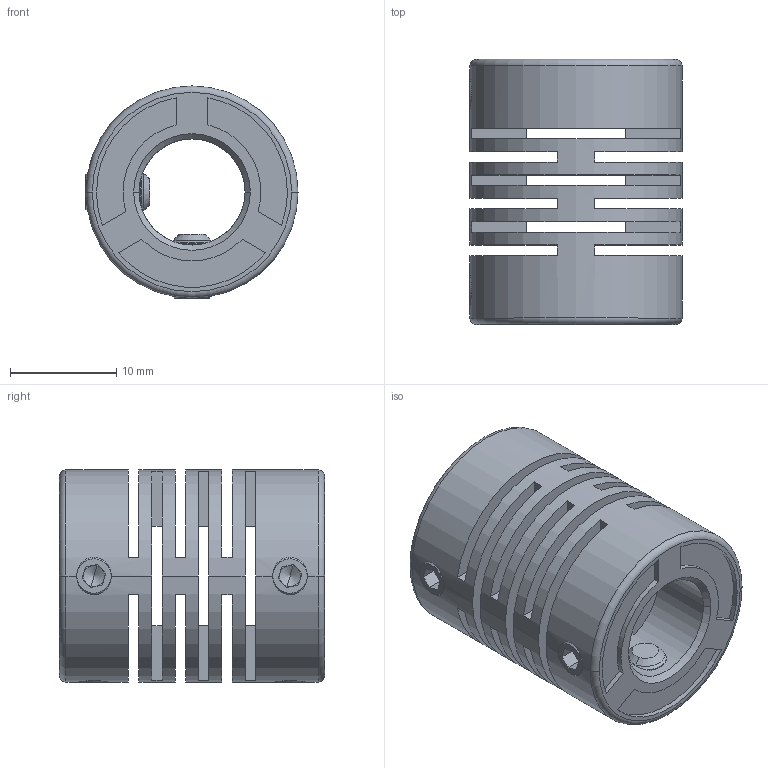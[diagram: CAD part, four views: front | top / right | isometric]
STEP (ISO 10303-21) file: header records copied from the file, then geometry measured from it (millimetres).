
FILE_DESCRIPTION (( 'STEP AP203' ), '1' );
FILE_NAME ('LR2-D-D20L25.STEP', '2021-10-28T08:17:24', ( '' ), ( '' ), 'SwSTEP 2.0', 'SolidWorks 2018', '' );
FILE_SCHEMA (( 'CONFIG_CONTROL_DESIGN' ));
Length unit declared in the file: millimetre
Products named in the file (1): LR2-D-D20L25
Bounding box: 20 x 25 x 20 mm (x, y, z)
Volume: 4581.9 mm3; surface area: 4991.2 mm2
Topology: 1 solids, 1 shells, 220 faces, 610 edges, 386 vertices
Faces by surface type: plane 124, cone 52, cylinder 40, torus 4
Entity records: 7373 total; most frequent: CARTESIAN_POINT 1627, ORIENTED_EDGE 1204, DIRECTION 1186, EDGE_CURVE 602, AXIS2_PLACEMENT_3D 437, VERTEX_POINT 386, VECTOR 312, LINE 312
